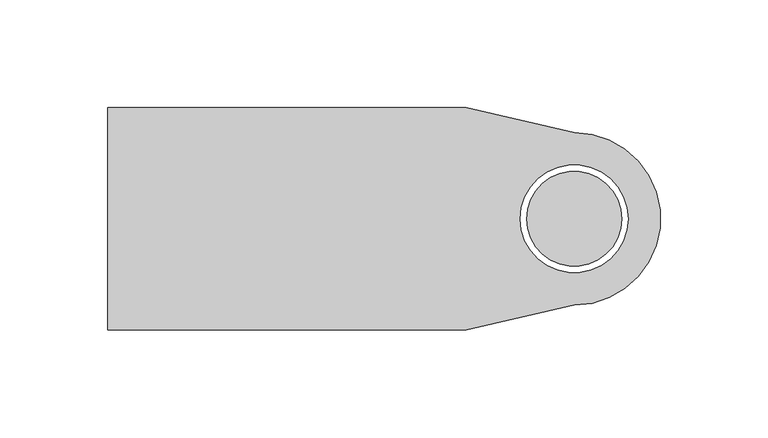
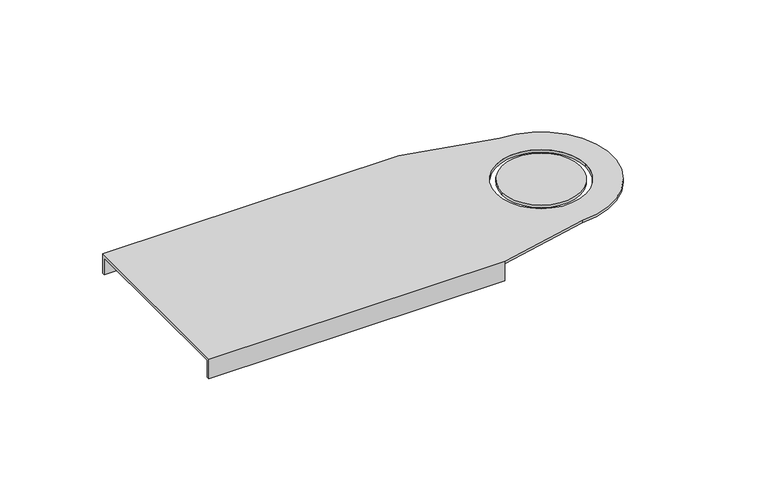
"""IFC4 building model written with IfcOpenShell, lengths in millimetres: cable carrier fitting geometry, BAKS_LDLS_BEND_Articulated connector for LLDS_LGSU : LGSUP_H100."""

import ifcopenshell
import ifcopenshell.guid

model = None  # the IFC model being written
_history = None  # IfcOwnerHistory: only IFC2X3 demands one
_inside = {}  # id of a spatial element -> (the spatial element, [elements in it])
_under = {}  # id of a project, library or spatial element -> (it, [spatial elements below it])
_declared = {}  # id of a project -> (the project, [libraries it declares])
_typed = {}  # id of a type object -> (the type object, [elements of that type])
_made_of = {}  # id of a material, layer set ... -> (it, [elements and type objects made of it])


def new_model(schema):
    """Start an empty IFC model of exactly this schema.

    Asked for "IFC4X3", IfcOpenShell would pick the latest addendum, in which some entities
    have other attributes; the version numbers below select the first issue.
    IFC2X3 requires an IfcOwnerHistory on every rooted entity: one is made here for all.
    """
    global model, _history
    if schema == "IFC4X3":
        model = ifcopenshell.file(schema_version=(4, 3, 0, 0))
    else:
        model = ifcopenshell.file(schema=schema)
    _inside.clear()
    _under.clear()
    _declared.clear()
    _typed.clear()
    _made_of.clear()
    _history = None
    if model.schema == "IFC2X3":
        org = make("IfcOrganization", Name="unknown")
        user = make(
            "IfcPersonAndOrganization",
            ThePerson=make("IfcPerson", FamilyName="unknown"),
            TheOrganization=org,
        )
        app = make(
            "IfcApplication",
            ApplicationDeveloper=org,
            Version="unknown",
            ApplicationFullName="unknown",
            ApplicationIdentifier="unknown",
        )
        _history = make(
            "IfcOwnerHistory",
            OwningUser=user,
            OwningApplication=app,
            ChangeAction="ADDED",
            CreationDate=0,
        )
    return model


def make(cls, **values):
    """One entity of the class cls with the attributes given. An attribute that is None is left unset."""
    return model.create_entity(
        cls, **{name: value for name, value in values.items() if value is not None}
    )


def rooted(cls, **values):
    """An entity with a GlobalId (a new one), such as an element, a storey or a relation."""
    return make(cls, GlobalId=ifcopenshell.guid.new(), OwnerHistory=_history, **values)


def si_unit(unit_type, name, prefix=None):
    """IfcSIUnit, for example si_unit("LENGTHUNIT", "METRE", prefix="MILLI")."""
    return make("IfcSIUnit", UnitType=unit_type, Prefix=prefix, Name=name)


def assignment(units):
    """IfcUnitAssignment: the units of a project."""
    return None if units is None else make("IfcUnitAssignment", Units=units)


def point(xyz):
    """IfcCartesianPoint."""
    return None if xyz is None else make("IfcCartesianPoint", Coordinates=xyz)


def direction(xyz):
    """IfcDirection."""
    return None if xyz is None else make("IfcDirection", DirectionRatios=xyz)


def frame(location, z_axis=None, x_axis=None):
    """IfcAxis2Placement3D, a coordinate frame: its origin and axes. An axis left out is left unset."""
    return make(
        "IfcAxis2Placement3D",
        Location=point(location),
        Axis=direction(z_axis),
        RefDirection=direction(x_axis),
    )


def origin():
    """The frame at (0, 0, 0) with its axes left unset."""
    return frame((0.0, 0.0, 0.0))


def place(relative_to, where):
    """IfcLocalPlacement: puts the frame where relative to a parent placement (None: the world)."""
    return make(
        "IfcLocalPlacement", PlacementRelTo=relative_to, RelativePlacement=where
    )


def context(
    kind, dimensions, precision=None, world=None, true_north=None, identifier=None
):
    """IfcGeometricRepresentationContext, for example the 3D "Model" context."""
    return make(
        "IfcGeometricRepresentationContext",
        ContextIdentifier=identifier,
        ContextType=kind,
        CoordinateSpaceDimension=dimensions,
        Precision=precision,
        WorldCoordinateSystem=world,
        TrueNorth=true_north,
    )


def project(units=None, contexts=None):
    """IfcProject with its units and contexts."""
    return rooted(
        "IfcProject",
        Name="project",
        RepresentationContexts=contexts,
        UnitsInContext=assignment(units),
    )


def spatial(cls, under=None, at=None, **own):
    """A site, building, storey or space (cls), placed at a placement, below another one or the project."""
    s = rooted(cls, ObjectPlacement=at, **own)
    if under is not None:
        _under.setdefault(under.id(), (under, []))[1].append(s)
    return s


def polyline(points):
    """IfcPolyline through the points."""
    return make("IfcPolyline", Points=[point(p) for p in points])


def circle_curve(where, radius):
    """IfcCircle in the frame where."""
    return make("IfcCircle", Position=where, Radius=radius)


def shape(context_of_items, identifier, shape_type, items):
    """IfcShapeRepresentation: the items that make up one representation, for example the "Body"."""
    return make(
        "IfcShapeRepresentation",
        ContextOfItems=context_of_items,
        RepresentationIdentifier=identifier,
        RepresentationType=shape_type,
        Items=items,
    )


def source(mapping_origin, context_of_items, identifier, shape_type, items):
    """IfcRepresentationMap: a shape defined once, which mapped items show again and again."""
    return make(
        "IfcRepresentationMap",
        MappingOrigin=mapping_origin,
        MappedRepresentation=shape(context_of_items, identifier, shape_type, items),
    )


def transform(
    local_origin,
    x_axis=None,
    y_axis=None,
    z_axis=None,
    scale=None,
    scale2=None,
    scale3=None,
    uniform=True,
):
    """IfcCartesianTransformationOperator3D, or its non-uniform kind. x_axis, y_axis, z_axis: its Axis1, 2, 3."""
    if uniform:
        return make(
            "IfcCartesianTransformationOperator3D",
            Axis1=direction(x_axis),
            Axis2=direction(y_axis),
            LocalOrigin=point(local_origin),
            Scale=scale,
            Axis3=direction(z_axis),
        )
    return make(
        "IfcCartesianTransformationOperator3DnonUniform",
        Axis1=direction(x_axis),
        Axis2=direction(y_axis),
        LocalOrigin=point(local_origin),
        Scale=scale,
        Axis3=direction(z_axis),
        Scale2=scale2,
        Scale3=scale3,
    )


def mapped(mapping_source, mapping_target):
    """IfcMappedItem: shows the shape of a source again, moved by a transform."""
    return make(
        "IfcMappedItem", MappingSource=mapping_source, MappingTarget=mapping_target
    )


def made_of(thing, what):
    """Note that an element or type object is made of a material, layer set ...; save() writes the relation."""
    if what is not None:
        _made_of.setdefault(what.id(), (what, []))[1].append(thing)
    return thing


def element(
    cls,
    number,
    at=None,
    inside=None,
    cuts=None,
    type_object=None,
    material=None,
    context=None,
    identifier="Body",
    shape_type=None,
    held_by="IfcProductDefinitionShape",
    body=None,
    shapes=None,
    **own,
):
    """One element of the class cls, such as IfcWall. Its Tag is "e" and its number.

    at: its placement. inside: the storey or other place that contains it. cuts: it is an
    opening in that element (IfcRelVoidsElement). A single representation is given by context,
    identifier, shape_type and body (its items); several are given by shapes. held_by: the class
    of the entity that holds the representations. save() writes the other relations.
    """
    e = rooted(cls, Tag="e%d" % number, ObjectPlacement=at, **own)
    if body is not None:
        shapes = [shape(context, identifier, shape_type, body)]
    if shapes is not None:
        e.Representation = make(held_by, Representations=shapes)
    if inside is not None:
        _inside.setdefault(inside.id(), (inside, []))[1].append(e)
    if cuts is not None:
        rooted(
            "IfcRelVoidsElement", RelatingBuildingElement=cuts, RelatedOpeningElement=e
        )
    if type_object is not None:
        _typed.setdefault(type_object.id(), (type_object, []))[1].append(e)
    return made_of(e, material)


def aggregate(whole, parts):
    """IfcRelAggregates: a whole, such as a stair, and the parts it consists of."""
    return rooted("IfcRelAggregates", RelatingObject=whole, RelatedObjects=parts)


def save(model, path):
    """Write the relations noted so far, then the file.

    IfcRelAggregates (storeys below a building ...), IfcRelContainedInSpatialStructure (elements
    in a storey), IfcRelDefinesByType, IfcRelAssociatesMaterial and IfcRelDeclares: one each for
    every whole, place, type object, material and project.
    """
    for whole, parts in _under.values():
        aggregate(whole, parts)
    for where, things in _inside.values():
        rooted(
            "IfcRelContainedInSpatialStructure",
            RelatedElements=things,
            RelatingStructure=where,
        )
    for kind, things in _typed.values():
        rooted("IfcRelDefinesByType", RelatedObjects=things, RelatingType=kind)
    for what, things in _made_of.values():
        rooted("IfcRelAssociatesMaterial", RelatedObjects=things, RelatingMaterial=what)
    for by, libraries in _declared.values():
        rooted("IfcRelDeclares", RelatingContext=by, RelatedDefinitions=libraries)
    model.write(path)


def plane_surface(at):
    """IfcPlane: the flat surface through the origin of the frame at, square to its z axis."""
    return make("IfcPlane", Position=at)


def cylinder_surface(at, radius):
    """IfcCylindricalSurface: all points at the distance radius from the z axis of the frame at."""
    return make("IfcCylindricalSurface", Position=at, Radius=radius)


def revolved_surface(curve, axis_point, axis_direction):
    """IfcSurfaceOfRevolution: the curve turned about the line through axis_point along axis_direction."""
    return make(
        "IfcSurfaceOfRevolution",
        SweptCurve=make("IfcArbitraryOpenProfileDef", ProfileType="CURVE", Curve=curve),
        AxisPosition=make("IfcAxis1Placement", Location=point(axis_point), Axis=direction(axis_direction)),
    )


def advanced_brep(points, edges, surfaces, faces):
    """IfcAdvancedBrep: a solid bounded by faces that lie on surfaces and meet in shared edges.

    An edge is (start, end): straight between two places in points (the first is 0);
    or (start, end, curve); or (start, end, curve, False) where it runs against its curve.
    A face is (place in surfaces, loops), or (place, loops, False) where it looks against
    its surface's normal. A loop lists edges by number (the first is 1), with a minus sign
    where the edge is run from its end to its start. The first loop is the outer one.
    """
    corners = [point(p) for p in points]
    vertices = [make("IfcVertexPoint", VertexGeometry=c) for c in corners]
    made = []
    for start, end, *more in edges:
        made.append(
            make(
                "IfcEdgeCurve",
                EdgeStart=vertices[start],
                EdgeEnd=vertices[end],
                EdgeGeometry=more[0] if more else make("IfcPolyline", Points=[corners[start], corners[end]]),
                SameSense=more[1] if len(more) > 1 else True,
            )
        )
    hull = []
    for where, loops, *sense in faces:
        bounds = []
        for j, loop in enumerate(loops):
            ring = [make("IfcOrientedEdge", EdgeElement=made[abs(k) - 1], Orientation=k > 0) for k in loop]
            bounds.append(
                make(
                    "IfcFaceOuterBound" if j == 0 else "IfcFaceBound",
                    Bound=make("IfcEdgeLoop", EdgeList=ring),
                    Orientation=True,
                )
            )
        hull.append(make("IfcAdvancedFace", Bounds=bounds, FaceSurface=surfaces[where], SameSense=sense[0] if sense else True))
    return make("IfcAdvancedBrep", Outer=make("IfcClosedShell", CfsFaces=hull))


def cable_carrier_fitting_f980dbfe(model_context):
    return source(origin(), model_context, "Body", "AdvancedBrep", [
        advanced_brep(
        [(-216.0, -51.5, 1.5), (-50.0, -51.5, 1.5), (0.0, -40.0, 1.5), (0.0, 40.0, 1.5), (-50.0, 51.5, 1.5), (-216.0, 51.5, 1.5), (25.0, 0.0, 1.5), (-25.0, 0.0, 1.5), (-50.0, 51.5, 0.0), (0.0, 40.0, 0.0), (0.0, -40.0, 0.0), (-50.0, -51.5, 0.0), (-50.0, -50.0, 0.0), (-216.0, -50.0, 0.0), (-216.0, 50.0, 0.0), (-50.0, 50.0, 0.0), (-25.0, 0.0, 0.0), (25.0, 0.0, 0.0), (-216.0, -51.5, -10.0), (-50.0, -51.5, -10.0), (-50.0, 51.5, -10.0), (-216.0, 51.5, -10.0), (-216.0, 50.0, -10.0), (-216.0, -50.0, -10.0), (-50.0, 50.0, -10.0), (-50.0, -50.0, -10.0)],
        [
            (0, 1),
            (1, 2),
            (2, 3, circle_curve(frame((0.0, 0.0, 1.5), z_axis=(0.0, 0.0, 1.0), x_axis=(-1.0, 0.0, 0.0)), 40.0)),
            (3, 4),
            (4, 5),
            (5, 0),
            (6, 7, circle_curve(frame((0.0, 0.0, 1.5), z_axis=(0.0, 0.0, -1.0), x_axis=(-1.0, 0.0, 0.0)), 25.0)),
            (7, 6, circle_curve(frame((0.0, 0.0, 1.5), z_axis=(0.0, 0.0, -1.0), x_axis=(-1.0, 0.0, 0.0)), 25.0)),
            (8, 9),
            (9, 10, circle_curve(frame((0.0, 0.0, 0.0), z_axis=(0.0, 0.0, -1.0), x_axis=(-1.0, 0.0, 0.0)), 40.0)),
            (10, 11),
            (11, 12),
            (12, 13),
            (13, 14),
            (14, 15),
            (15, 8),
            (16, 17, circle_curve(frame((0.0, 0.0, 0.0), z_axis=(0.0, 0.0, 1.0), x_axis=(-1.0, 0.0, 0.0)), 25.0)),
            (17, 16, circle_curve(frame((0.0, 0.0, 0.0), z_axis=(0.0, 0.0, 1.0), x_axis=(-1.0, 0.0, 0.0)), 25.0)),
            (0, 18),
            (18, 19),
            (19, 11),
            (11, 1),
            (4, 8),
            (8, 20),
            (20, 21),
            (21, 5),
            (21, 22),
            (22, 14),
            (13, 23),
            (23, 18),
            (6, 17),
            (16, 7),
            (10, 2),
            (9, 3),
            (20, 24),
            (24, 22),
            (24, 15),
            (23, 25),
            (25, 19),
            (25, 12),
        ],
        [
            plane_surface(frame((-50.0, -51.5, 1.5), z_axis=(0.0, 0.0, 1.0), x_axis=(1.0, 0.0, 0.0))),
            plane_surface(frame((-50.0, -51.5, 0.0), z_axis=(0.0, 0.0, -1.0), x_axis=(-1.0, 0.0, 0.0))),
            plane_surface(frame((-216.0, -51.5, 1.5), z_axis=(0.0, -1.0, 0.0), x_axis=(0.0, 0.0, -1.0))),
            plane_surface(frame((-50.0, 51.5, 1.5), z_axis=(0.0, 1.0, 0.0), x_axis=(0.0, 0.0, -1.0))),
            plane_surface(frame((-216.0, 51.5, 1.5), z_axis=(-1.0, 0.0, 0.0), x_axis=(0.0, 0.0, -1.0))),
            revolved_surface(polyline([(-25.0, 0.0, 1.5), (-25.0, 0.0, 0.0)]), (0.0, 0.0, 0.0), (0.0, 0.0, 1.0)),
            plane_surface(frame((-50.0, -51.5, 1.5), z_axis=(0.22414769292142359, -0.9745551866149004, 0.0), x_axis=(0.0, 0.0, -1.0))),
            cylinder_surface(frame((0.0, 0.0, 0.0), z_axis=(0.0, 0.0, 1.0), x_axis=(-1.0, 0.0, 0.0)), 40.0),
            plane_surface(frame((0.0, 40.0, 1.5), z_axis=(0.2241476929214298, 0.9745551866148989, 0.0), x_axis=(0.0, 0.0, -1.0))),
            plane_surface(frame((-50.0, 50.0, -10.0), z_axis=(0.0, 0.0, -1.0), x_axis=(-1.0, 0.0, 0.0))),
            plane_surface(frame((-216.0, 50.0, 0.0), z_axis=(0.0, -1.0, 0.0), x_axis=(0.0, 0.0, -1.0))),
            plane_surface(frame((-50.0, 50.0, 0.0), z_axis=(1.0, 0.0, 0.0), x_axis=(0.0, 0.0, -1.0))),
            plane_surface(frame((-50.0, -51.5, -10.0), z_axis=(0.0, 0.0, -1.0), x_axis=(-1.0, 0.0, 0.0))),
            plane_surface(frame((-50.0, -51.5, 0.0), z_axis=(1.0, 0.0, 0.0), x_axis=(0.0, 0.0, -1.0))),
            plane_surface(frame((-50.0, -50.0, 0.0), z_axis=(0.0, 1.0, 0.0), x_axis=(0.0, 0.0, -1.0))),
        ],
        [
            (0, [[1, 2, 3, 4, 5, 6], [7, 8]]),
            (1, [[9, 10, 11, 12, 13, 14, 15, 16], [17, 18]]),
            (2, [[-1, 19, 20, 21, 22]]),
            (3, [[-5, 23, 24, 25, 26]]),
            (4, [[-19, -6, -26, 27, 28, -14, 29, 30]]),
            (5, [[31, -17, 32, -7]]),
            (5, [[-31, -8, -32, -18]]),
            (6, [[-2, -22, -11, 33]]),
            (7, [[-3, -33, -10, 34]]),
            (8, [[-4, -34, -9, -23]]),
            (9, [[-27, -25, 35, 36]]),
            (10, [[-36, 37, -15, -28]]),
            (11, [[-35, -24, -16, -37]]),
            (12, [[-30, 38, 39, -20]]),
            (13, [[-39, 40, -12, -21]]),
            (14, [[-38, -29, -13, -40]]),
        ],
    ),
        advanced_brep(
        [(22.0, 0.0, 1.5), (-22.0, 0.0, 1.5), (-22.0, 0.0, 0.0), (22.0, 0.0, 0.0)],
        [
            (0, 1, circle_curve(frame((0.0, 0.0, 1.5), z_axis=(0.0, 0.0, 1.0), x_axis=(-1.0, 0.0, 0.0)), 22.0)),
            (1, 0, circle_curve(frame((0.0, 0.0, 1.5), z_axis=(0.0, 0.0, 1.0), x_axis=(-1.0, 0.0, 0.0)), 22.0)),
            (2, 3, circle_curve(frame((0.0, 0.0, 0.0), z_axis=(0.0, 0.0, -1.0), x_axis=(-1.0, 0.0, 0.0)), 22.0)),
            (3, 2, circle_curve(frame((0.0, 0.0, 0.0), z_axis=(0.0, 0.0, -1.0), x_axis=(-1.0, 0.0, 0.0)), 22.0)),
            (0, 3),
            (2, 1),
        ],
        [
            plane_surface(frame((-50.0, -51.5, 1.5), z_axis=(0.0, 0.0, 1.0), x_axis=(1.0, 0.0, 0.0))),
            plane_surface(frame((-50.0, -51.5, 0.0), z_axis=(0.0, 0.0, -1.0), x_axis=(-1.0, 0.0, 0.0))),
            cylinder_surface(frame((0.0, 0.0, 0.0), z_axis=(0.0, 0.0, -1.0), x_axis=(-1.0, 0.0, 0.0)), 22.0),
        ],
        [
            (0, [[1, 2]]),
            (1, [[3, 4]]),
            (2, [[5, -3, 6, -1]]),
            (2, [[-5, -2, -6, -4]]),
        ],
    ),
    ])


if __name__ == "__main__":
    model = new_model("IFC4")
    model_context = context("Model", 3, world=origin())
    ifc_project = project(units=[si_unit("LENGTHUNIT", "METRE", prefix="MILLI")], contexts=[model_context])
    site = spatial("IfcSite", under=ifc_project)
    building = spatial("IfcBuilding", under=site)
    placement = place(None, origin())
    cable_carrier_fitting_shape = cable_carrier_fitting_f980dbfe(model_context)
    element("IfcCableCarrierFitting", 1, ObjectType="BAKS_LDLS_BEND_Articulated connector for LLDS_LGSU : LGSUP_H100", at=placement, inside=building, context=model_context, shape_type="MappedRepresentation", body=[
        mapped(cable_carrier_fitting_shape, transform((0.0, 0.0, 0.0), x_axis=(1.0, 0.0, 0.0), y_axis=(0.0, 1.0, 0.0), z_axis=(0.0, 0.0, 1.0))),
    ])
    save(model, "model.ifc")
